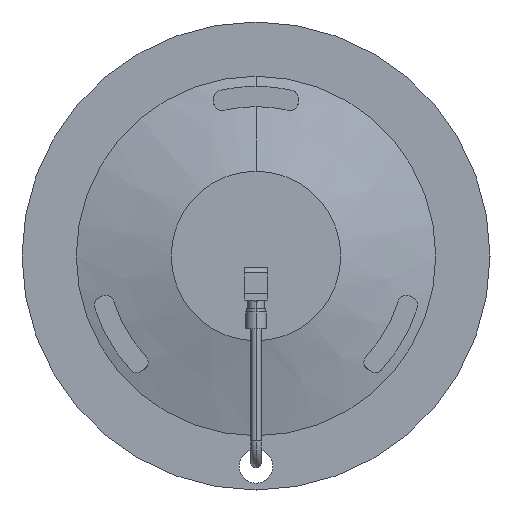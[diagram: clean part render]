
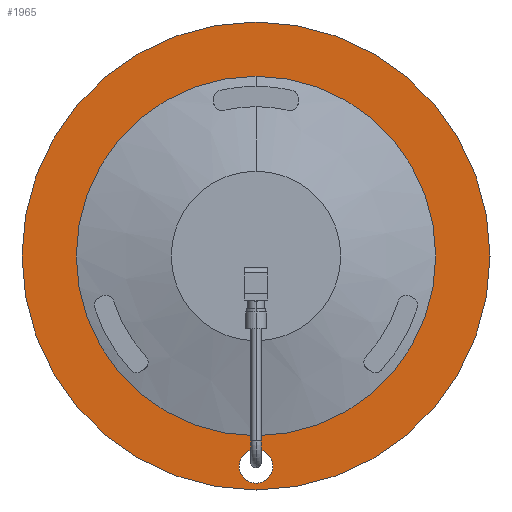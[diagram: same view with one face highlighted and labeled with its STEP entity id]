
A CAD part, front view. The second image highlights one B-rep face of the part: STEP entity #1965.
In plain terms, the highlighted planar face has unit normal (0, -1, 0).
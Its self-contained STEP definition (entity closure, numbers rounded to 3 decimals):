
#76 = CARTESIAN_POINT ( 'NONE',  ( 0., -172.8, -105.981 ) ) ;
#254 = DIRECTION ( 'NONE',  ( 0., -1., 0. ) ) ;
#329 = EDGE_CURVE ( 'NONE', #4335, #11134, #7630, .T. ) ;
#686 = VERTEX_POINT ( 'NONE', #6474 ) ;
#815 = EDGE_CURVE ( 'NONE', #11134, #4335, #6918, .T. ) ;
#1316 = DIRECTION ( 'NONE',  ( 0., 0., -1. ) ) ;
#1321 = CARTESIAN_POINT ( 'NONE',  ( 0., -172.8, 138. ) ) ;
#1626 = DIRECTION ( 'NONE',  ( 0., -1., 0. ) ) ;
#1965 = ADVANCED_FACE ( 'NONE', ( #11891, #15577, #12126 ), #14412, .T. ) ;
#2621 = EDGE_CURVE ( 'NONE', #11495, #5279, #5798, .T. ) ;
#2858 = CARTESIAN_POINT ( 'NONE',  ( 0., -172.8, 0. ) ) ;
#3152 = AXIS2_PLACEMENT_3D ( 'NONE', #4410, #14268, #6731 ) ;
#4049 = EDGE_LOOP ( 'NONE', ( #14798, #8971 ) ) ;
#4273 = EDGE_CURVE ( 'NONE', #5279, #11495, #14753, .T. ) ;
#4335 = VERTEX_POINT ( 'NONE', #76 ) ;
#4410 = CARTESIAN_POINT ( 'NONE',  ( 0., -172.8, -124. ) ) ;
#5279 = VERTEX_POINT ( 'NONE', #1321 ) ;
#5347 = CIRCLE ( 'NONE', #11637, 10. ) ;
#5517 = EDGE_LOOP ( 'NONE', ( #13273, #6309 ) ) ;
#5798 = CIRCLE ( 'NONE', #11833, 138. ) ;
#6216 = ORIENTED_EDGE ( 'NONE', *, *, #2621, .F. ) ;
#6309 = ORIENTED_EDGE ( 'NONE', *, *, #7323, .F. ) ;
#6328 = CARTESIAN_POINT ( 'NONE',  ( 0., -172.8, 0. ) ) ;
#6474 = CARTESIAN_POINT ( 'NONE',  ( 0., -172.8, -114. ) ) ;
#6731 = DIRECTION ( 'NONE',  ( 0., 0., -1. ) ) ;
#6794 = DIRECTION ( 'NONE',  ( 0., -1., 0. ) ) ;
#6911 = AXIS2_PLACEMENT_3D ( 'NONE', #6328, #7738, #7401 ) ;
#6918 = CIRCLE ( 'NONE', #13189, 105.981 ) ;
#7323 = EDGE_CURVE ( 'NONE', #13304, #686, #14419, .T. ) ;
#7401 = DIRECTION ( 'NONE',  ( 0., 0., 1. ) ) ;
#7436 = CARTESIAN_POINT ( 'NONE',  ( 0., -172.8, -134. ) ) ;
#7624 = CARTESIAN_POINT ( 'NONE',  ( 0., -172.8, -138. ) ) ;
#7630 = CIRCLE ( 'NONE', #10457, 105.981 ) ;
#7738 = DIRECTION ( 'NONE',  ( 0., 1., 0. ) ) ;
#7744 = CARTESIAN_POINT ( 'NONE',  ( 0., -172.8, 105.981 ) ) ;
#8188 = DIRECTION ( 'NONE',  ( 0., 0., -1. ) ) ;
#8610 = DIRECTION ( 'NONE',  ( 0., 1., 0. ) ) ;
#8971 = ORIENTED_EDGE ( 'NONE', *, *, #329, .F. ) ;
#9137 = EDGE_LOOP ( 'NONE', ( #13024, #6216 ) ) ;
#9336 = CARTESIAN_POINT ( 'NONE',  ( 0., -172.8, 0. ) ) ;
#10457 = AXIS2_PLACEMENT_3D ( 'NONE', #2858, #1626, #13206 ) ;
#10907 = DIRECTION ( 'NONE',  ( 0., -1., 0. ) ) ;
#11064 = DIRECTION ( 'NONE',  ( 0., 0., 1. ) ) ;
#11134 = VERTEX_POINT ( 'NONE', #7744 ) ;
#11186 = CARTESIAN_POINT ( 'NONE',  ( 0., -172.8, -124. ) ) ;
#11495 = VERTEX_POINT ( 'NONE', #7624 ) ;
#11637 = AXIS2_PLACEMENT_3D ( 'NONE', #11186, #254, #1316 ) ;
#11810 = AXIS2_PLACEMENT_3D ( 'NONE', #12044, #10907, #13193 ) ;
#11833 = AXIS2_PLACEMENT_3D ( 'NONE', #13528, #8610, #11064 ) ;
#11891 = FACE_BOUND ( 'NONE', #4049, .T. ) ;
#12044 = CARTESIAN_POINT ( 'NONE',  ( -138., -172.8, 0. ) ) ;
#12126 = FACE_OUTER_BOUND ( 'NONE', #9137, .T. ) ;
#13024 = ORIENTED_EDGE ( 'NONE', *, *, #4273, .F. ) ;
#13189 = AXIS2_PLACEMENT_3D ( 'NONE', #9336, #6794, #8188 ) ;
#13193 = DIRECTION ( 'NONE',  ( 0., 0., -1. ) ) ;
#13206 = DIRECTION ( 'NONE',  ( 0., 0., -1. ) ) ;
#13273 = ORIENTED_EDGE ( 'NONE', *, *, #15649, .F. ) ;
#13304 = VERTEX_POINT ( 'NONE', #7436 ) ;
#13528 = CARTESIAN_POINT ( 'NONE',  ( 0., -172.8, 0. ) ) ;
#14268 = DIRECTION ( 'NONE',  ( 0., -1., 0. ) ) ;
#14412 = PLANE ( 'NONE',  #11810 ) ;
#14419 = CIRCLE ( 'NONE', #3152, 10. ) ;
#14753 = CIRCLE ( 'NONE', #6911, 138. ) ;
#14798 = ORIENTED_EDGE ( 'NONE', *, *, #815, .F. ) ;
#15577 = FACE_BOUND ( 'NONE', #5517, .T. ) ;
#15649 = EDGE_CURVE ( 'NONE', #686, #13304, #5347, .T. ) ;
